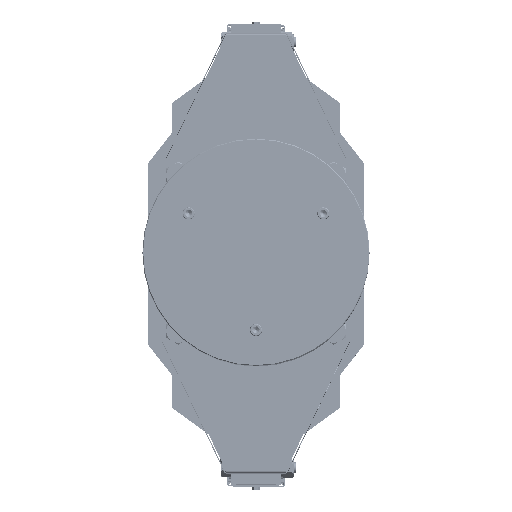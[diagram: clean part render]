
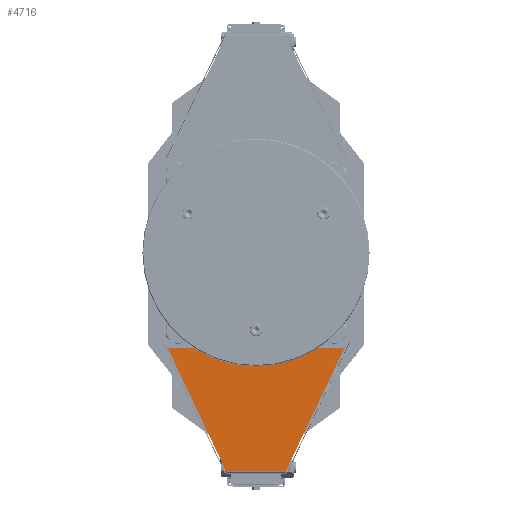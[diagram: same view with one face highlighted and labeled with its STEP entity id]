
A CAD part, top view. The second image highlights one B-rep face of the part: STEP entity #4716.
In plain terms, the highlighted planar face has unit normal (0, 0, 1).
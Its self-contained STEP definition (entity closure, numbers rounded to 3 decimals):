
#4716=ADVANCED_FACE('',(#14768),#14769,.F.);
#14768=FACE_OUTER_BOUND('',#26734,.T.);
#14769=PLANE('',#26735);
#26734=EDGE_LOOP('',(#61995,#61996,#61997,#61998));
#26735=AXIS2_PLACEMENT_3D('',#61999,#62000,#62001);
#61995=ORIENTED_EDGE('',*,*,#80222,.T.);
#61996=ORIENTED_EDGE('',*,*,#80226,.T.);
#61997=ORIENTED_EDGE('',*,*,#80227,.T.);
#61998=ORIENTED_EDGE('',*,*,#80228,.T.);
#61999=CARTESIAN_POINT('',(-88.,-230.468,1139.032));
#62000=DIRECTION('',(0.,0.,-1.));
#62001=DIRECTION('',(0.,-1.,0.));
#80222=EDGE_CURVE('',#99966,#99967,#99968,.T.);
#80226=EDGE_CURVE('',#99967,#99974,#99975,.T.);
#80227=EDGE_CURVE('',#99974,#99976,#99977,.T.);
#80228=EDGE_CURVE('',#99976,#99966,#99978,.T.);
#99966=VERTEX_POINT('',#146330);
#99967=VERTEX_POINT('',#146331);
#99968=LINE('',#146332,#146333);
#99974=VERTEX_POINT('',#146342);
#99975=LINE('',#146343,#146344);
#99976=VERTEX_POINT('',#146345);
#99977=LINE('',#146346,#146347);
#99978=LINE('',#146348,#146349);
#146330=CARTESIAN_POINT('',(44.,-322.968,1139.032));
#146331=CARTESIAN_POINT('',(132.,-137.968,1139.032));
#146332=CARTESIAN_POINT('',(71.762,-264.604,1139.032));
#146333=VECTOR('',#167772,10.);
#146342=CARTESIAN_POINT('',(-132.,-137.968,1139.032));
#146343=CARTESIAN_POINT('',(-132.,-137.968,1139.032));
#146344=VECTOR('',#167776,10.);
#146345=CARTESIAN_POINT('',(-44.,-322.968,1139.032));
#146346=CARTESIAN_POINT('',(-88.,-230.468,1139.032));
#146347=VECTOR('',#167777,10.);
#146348=CARTESIAN_POINT('',(132.,-322.968,1139.032));
#146349=VECTOR('',#167778,10.);
#167772=DIRECTION('',(0.43,0.903,0.));
#167776=DIRECTION('',(-1.,0.,0.));
#167777=DIRECTION('',(0.43,-0.903,0.));
#167778=DIRECTION('',(1.,0.,0.));
